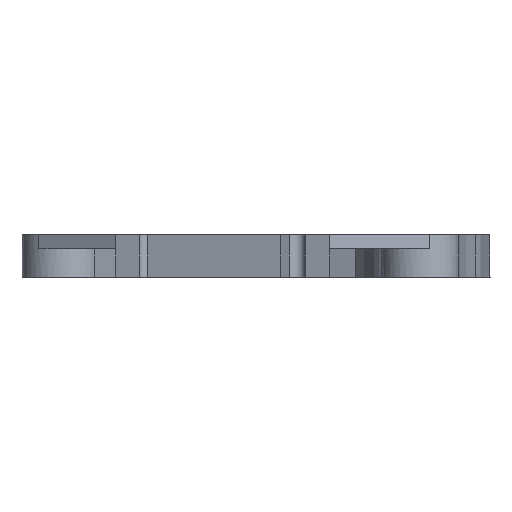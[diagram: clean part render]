
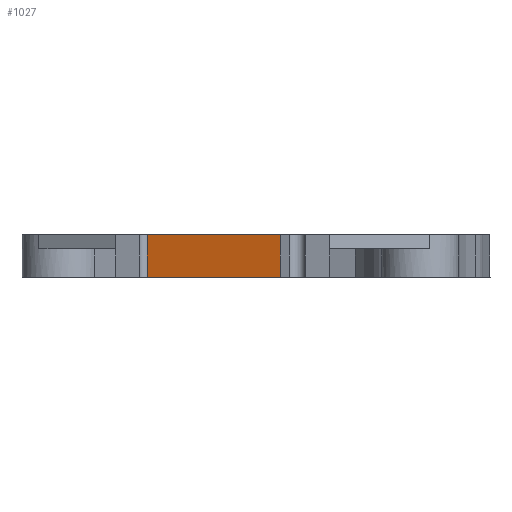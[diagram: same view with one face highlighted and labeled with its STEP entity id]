
A CAD part, front view. The second image highlights one B-rep face of the part: STEP entity #1027.
In plain terms, the highlighted planar face has unit normal (-0.313, -0.95, 0).
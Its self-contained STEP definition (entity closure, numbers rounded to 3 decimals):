
#3 = VECTOR ( 'NONE', #2879, 1000. ) ;
#128 = FACE_OUTER_BOUND ( 'NONE', #4230, .T. ) ;
#218 = DIRECTION ( 'NONE',  ( 0.95, -0.313, 0. ) ) ;
#256 = LINE ( 'NONE', #2367, #1195 ) ;
#258 = CARTESIAN_POINT ( 'NONE',  ( -9.947, -33.379, 3. ) ) ;
#420 = CARTESIAN_POINT ( 'NONE',  ( -19.443, -30.245, 3. ) ) ;
#531 = AXIS2_PLACEMENT_3D ( 'NONE', #1498, #1813, #2841 ) ;
#574 = ORIENTED_EDGE ( 'NONE', *, *, #3533, .F. ) ;
#714 = VERTEX_POINT ( 'NONE', #4347 ) ;
#734 = EDGE_CURVE ( 'NONE', #2049, #714, #862, .T. ) ;
#862 = LINE ( 'NONE', #4374, #3686 ) ;
#1027 = ADVANCED_FACE ( 'NONE', ( #128 ), #3153, .F. ) ;
#1195 = VECTOR ( 'NONE', #3357, 1000. ) ;
#1220 = VERTEX_POINT ( 'NONE', #3302 ) ;
#1437 = CARTESIAN_POINT ( 'NONE',  ( -9.947, -33.379, 3. ) ) ;
#1498 = CARTESIAN_POINT ( 'NONE',  ( -9.947, -33.379, 3. ) ) ;
#1514 = CARTESIAN_POINT ( 'NONE',  ( -9.947, -33.379, 0. ) ) ;
#1564 = DIRECTION ( 'NONE',  ( 0., 0., -1. ) ) ;
#1621 = VECTOR ( 'NONE', #218, 1000. ) ;
#1758 = EDGE_CURVE ( 'NONE', #714, #1220, #1850, .T. ) ;
#1769 = ORIENTED_EDGE ( 'NONE', *, *, #1758, .T. ) ;
#1813 = DIRECTION ( 'NONE',  ( 0.313, 0.95, 0. ) ) ;
#1850 = LINE ( 'NONE', #1514, #3 ) ;
#2049 = VERTEX_POINT ( 'NONE', #420 ) ;
#2367 = CARTESIAN_POINT ( 'NONE',  ( -9.947, -33.379, 3. ) ) ;
#2597 = LINE ( 'NONE', #258, #1621 ) ;
#2841 = DIRECTION ( 'NONE',  ( 0., 0., -1. ) ) ;
#2879 = DIRECTION ( 'NONE',  ( 0.95, -0.313, 0. ) ) ;
#2979 = ORIENTED_EDGE ( 'NONE', *, *, #3448, .F. ) ;
#3153 = PLANE ( 'NONE',  #531 ) ;
#3302 = CARTESIAN_POINT ( 'NONE',  ( -9.947, -33.379, 0. ) ) ;
#3357 = DIRECTION ( 'NONE',  ( 0., 0., -1. ) ) ;
#3448 = EDGE_CURVE ( 'NONE', #3770, #1220, #256, .T. ) ;
#3533 = EDGE_CURVE ( 'NONE', #2049, #3770, #2597, .T. ) ;
#3594 = ORIENTED_EDGE ( 'NONE', *, *, #734, .T. ) ;
#3686 = VECTOR ( 'NONE', #1564, 1000. ) ;
#3770 = VERTEX_POINT ( 'NONE', #1437 ) ;
#4230 = EDGE_LOOP ( 'NONE', ( #1769, #2979, #574, #3594 ) ) ;
#4347 = CARTESIAN_POINT ( 'NONE',  ( -19.443, -30.245, 0. ) ) ;
#4374 = CARTESIAN_POINT ( 'NONE',  ( -19.443, -30.245, 3. ) ) ;
